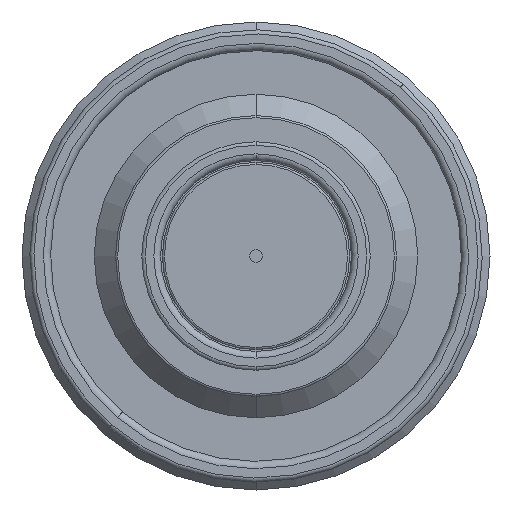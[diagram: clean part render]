
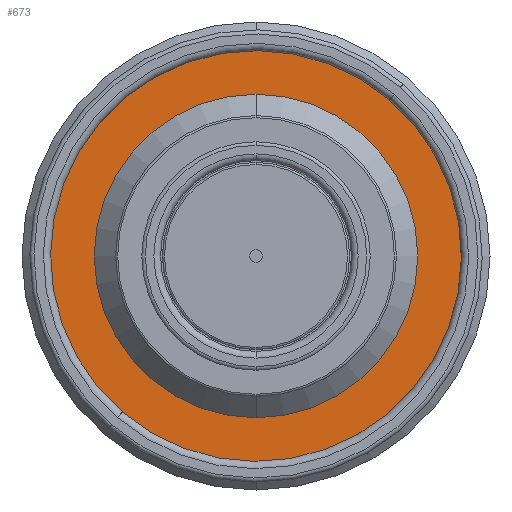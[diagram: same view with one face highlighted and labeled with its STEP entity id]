
A CAD part, front view. The second image highlights one B-rep face of the part: STEP entity #673.
In plain terms, the highlighted planar face has unit normal (0, -1, 0).
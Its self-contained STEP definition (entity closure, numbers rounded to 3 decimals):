
#276=PLANE('',#2866);
#318=FACE_BOUND('',#1038,.T.);
#319=FACE_BOUND('',#1039,.T.);
#673=ADVANCED_FACE('',(#318,#319),#276,.F.);
#1038=EDGE_LOOP('',(#1551,#1552));
#1039=EDGE_LOOP('',(#1553,#1554));
#1551=ORIENTED_EDGE('',*,*,#2282,.F.);
#1552=ORIENTED_EDGE('',*,*,#2205,.F.);
#1553=ORIENTED_EDGE('',*,*,#2201,.T.);
#1554=ORIENTED_EDGE('',*,*,#2283,.T.);
#1930=VERTEX_POINT('',#4377);
#1931=VERTEX_POINT('',#4379);
#1934=VERTEX_POINT('',#4386);
#1935=VERTEX_POINT('',#4388);
#2201=EDGE_CURVE('',#1931,#1930,#2491,.T.);
#2205=EDGE_CURVE('',#1934,#1935,#2494,.T.);
#2282=EDGE_CURVE('',#1935,#1934,#2546,.T.);
#2283=EDGE_CURVE('',#1930,#1931,#2547,.T.);
#2491=CIRCLE('',#2769,21.4);
#2494=CIRCLE('',#2773,15.55);
#2546=CIRCLE('',#2863,15.55);
#2547=CIRCLE('',#2865,21.4);
#2769=AXIS2_PLACEMENT_3D('',#4378,#3359,#3360);
#2773=AXIS2_PLACEMENT_3D('',#4387,#3368,#3369);
#2863=AXIS2_PLACEMENT_3D('',#4708,#3563,#3564);
#2865=AXIS2_PLACEMENT_3D('',#4710,#3567,#3568);
#2866=AXIS2_PLACEMENT_3D('',#4711,#3569,#3570);
#3359=DIRECTION('',(0.,-1.,0.));
#3360=DIRECTION('',(0.,0.,-1.));
#3368=DIRECTION('',(0.,-1.,0.));
#3369=DIRECTION('',(0.,0.,-1.));
#3563=DIRECTION('',(0.,-1.,0.));
#3564=DIRECTION('',(0.,0.,-1.));
#3567=DIRECTION('',(0.,-1.,0.));
#3568=DIRECTION('',(0.,0.,-1.));
#3569=DIRECTION('',(0.,1.,0.));
#3570=DIRECTION('',(0.,0.,-1.));
#4377=CARTESIAN_POINT('',(0.,46.5,21.4));
#4378=CARTESIAN_POINT('',(0.,46.5,0.));
#4379=CARTESIAN_POINT('',(0.,46.5,-21.4));
#4386=CARTESIAN_POINT('',(0.,46.5,-15.55));
#4387=CARTESIAN_POINT('',(0.,46.5,0.));
#4388=CARTESIAN_POINT('',(0.,46.5,15.55));
#4708=CARTESIAN_POINT('',(0.,46.5,0.));
#4710=CARTESIAN_POINT('',(0.,46.5,0.));
#4711=CARTESIAN_POINT('',(0.,46.5,0.));
